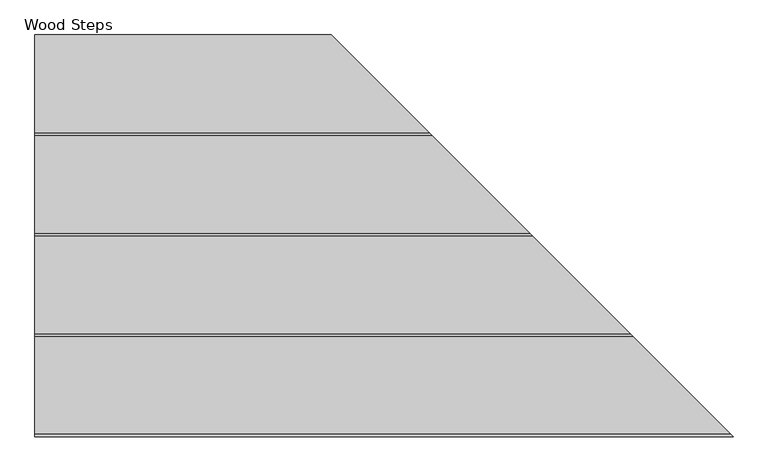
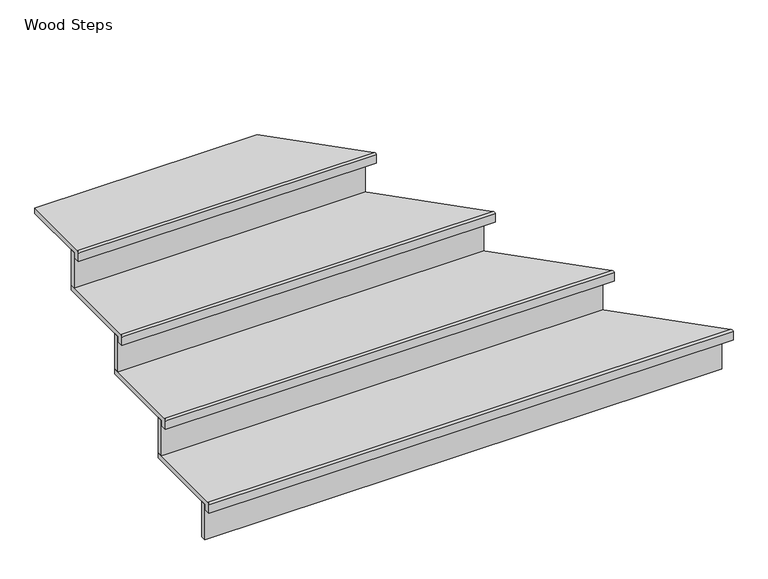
"""IFC4 building model written with IfcOpenShell, lengths in millimetres: stair flight geometry, Wood Steps."""

from ifc_helpers import new_model, si_unit, frame, origin, place, context, project, spatial, circle_curve, ellipse_curve, faceted_brep, source, transform, mapped, element, save
from ifc_brep_helpers import plane_surface, cylinder_surface, advanced_brep


def wood_steps_0b9f8741(model_context):
    return source(origin(), model_context, "Body", "SolidModel", [
        advanced_brep(
        [(29566.7670833, 8970.0499284, -615.95), (29560.4170833, 8976.3999284, -609.6), (27712.5670833, 8976.3999284, -609.6), (27712.5670833, 8970.0499284, -615.95), (29566.7670833, 8970.0499284, -647.7), (27712.5670833, 8970.0499284, -647.7), (29541.3670833, 8995.4499284, -647.7), (27712.5670833, 8995.4499284, -647.7), (27712.5670833, 8995.4499284, -628.65), (29541.3670833, 8995.4499284, -628.65), (29255.6170833, 9281.1999284, -609.6), (27712.5670833, 9281.1999284, -609.6), (27712.5670833, 9281.1999284, -628.65), (29255.6170833, 9281.1999284, -628.65)],
        [
            (0, 1, ellipse_curve(frame((29560.4170833, 8976.3999284, -615.95), z_axis=(-0.707106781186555, -0.7071067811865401, 0.0), x_axis=(0.70710678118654, -0.707106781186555, 0.0)), 8.9802561, 6.35)),
            (1, 2),
            (2, 3, circle_curve(frame((27712.5670833, 8976.3999284, -615.95), z_axis=(1.0, 0.0, 0.0), x_axis=(0.0, 1.0, 0.0)), 6.35)),
            (3, 0),
            (4, 0),
            (3, 5),
            (5, 4),
            (6, 4),
            (5, 7),
            (7, 6),
            (7, 8),
            (8, 9),
            (9, 6),
            (1, 10),
            (10, 11),
            (11, 2),
            (8, 12),
            (12, 13),
            (13, 9),
            (11, 12),
            (13, 10),
        ],
        [
            cylinder_surface(frame((29541.3670833, 8976.3999284, -615.95), z_axis=(1.0, 0.0, 0.0), x_axis=(0.0, 1.0, 0.0)), 6.35),
            plane_surface(frame((29566.7670833, 8970.0499284, -615.95), z_axis=(0.0, -1.0, 0.0), x_axis=(-1.0, 0.0, 0.0))),
            plane_surface(frame((29566.7670833, 8970.0499284, -647.7), z_axis=(0.0, 0.0, -1.0), x_axis=(-1.0, 0.0, 0.0))),
            plane_surface(frame((29541.3670833, 8995.4499284, -647.7), z_axis=(0.0, 1.0, 0.0), x_axis=(-1.0, 0.0, 0.0))),
            plane_surface(frame((27712.5670833, 8970.0499284, -609.6), z_axis=(0.0, 0.0, 1.0), x_axis=(0.0, -1.0, 0.0))),
            plane_surface(frame((27712.5670833, 8970.0499284, -628.65), z_axis=(0.0, 0.0, -1.0), x_axis=(0.0, 1.0, 0.0))),
            plane_surface(frame((27712.5670833, 9281.1999284, -609.6), z_axis=(-1.0, 0.0, 0.0), x_axis=(0.0, 0.0, -1.0))),
            plane_surface(frame((29541.3670833, 8995.4499284, -609.6), z_axis=(0.707106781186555, 0.7071067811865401, 0.0), x_axis=(0.0, 0.0, -1.0))),
            plane_surface(frame((29255.6170833, 9281.1999284, -609.6), z_axis=(0.0, 1.0, 0.0), x_axis=(0.0, 0.0, -1.0))),
        ],
        [
            (0, [[1, 2, 3, 4]]),
            (1, [[5, -4, 6, 7]]),
            (2, [[8, -7, 9, 10]]),
            (3, [[-10, 11, 12, 13]]),
            (4, [[-2, 14, 15, 16]]),
            (5, [[17, 18, 19, -12]]),
            (6, [[-16, 20, -17, -11, -9, -6, -3]]),
            (7, [[-14, -1, -5, -8, -13, -19, 21]]),
            (8, [[-15, -21, -18, -20]]),
        ],
    ),
        faceted_brep([(29541.3670833, 8995.4499284, -628.65), (29541.3670833, 8995.4499284, -762.0), (29522.3170833, 9014.4999284, -762.0), (29522.3170833, 9014.4999284, -628.65), (27712.5670833, 8995.4499284, -628.65), (27712.5670833, 9014.4999284, -628.65), (27712.5670833, 9014.4999284, -762.0), (27712.5670833, 8995.4499284, -762.0)], [[[0, 1, 2, 3]], [[4, 5, 6, 7]], [[1, 0, 4, 7]], [[2, 1, 7, 6]], [[3, 2, 6, 5]], [[0, 3, 5, 4]]]),
        faceted_brep([(29274.6670833, 9262.1499284, -476.25), (29274.6670833, 9262.1499284, -609.6), (29255.6170833, 9281.1999284, -609.6), (29255.6170833, 9281.1999284, -476.25), (27712.5670833, 9262.1499284, -476.25), (27712.5670833, 9281.1999284, -476.25), (27712.5670833, 9281.1999284, -609.6), (27712.5670833, 9262.1499284, -609.6)], [[[0, 1, 2, 3]], [[4, 5, 6, 7]], [[1, 0, 4, 7]], [[2, 1, 7, 6]], [[3, 2, 6, 5]], [[0, 3, 5, 4]]]),
        advanced_brep(
        [(27712.5670833, 9243.0999284, -457.2), (29293.7170833, 9243.0999284, -457.2), (28988.9170833, 9547.8999284, -457.2), (27712.5670833, 9547.8999284, -457.2), (27712.5670833, 9262.1499284, -476.25), (27712.5670833, 9547.8999284, -476.25), (28988.9170833, 9547.8999284, -476.25), (29274.6670833, 9262.1499284, -476.25), (29300.0670833, 9236.7499284, -463.55), (27712.5670833, 9236.7499284, -463.55), (29300.0670833, 9236.7499284, -495.3), (27712.5670833, 9236.7499284, -495.3), (29274.6670833, 9262.1499284, -495.3), (27712.5670833, 9262.1499284, -495.3)],
        [
            (0, 1),
            (1, 2),
            (2, 3),
            (3, 0),
            (4, 5),
            (5, 6),
            (6, 7),
            (7, 4),
            (2, 6),
            (5, 3),
            (8, 1, ellipse_curve(frame((29293.7170833, 9243.0999284, -463.55), z_axis=(-0.707106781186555, -0.7071067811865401, 0.0), x_axis=(0.7071067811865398, -0.7071067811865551, 0.0)), 8.9802561, 6.35)),
            (0, 9, circle_curve(frame((27712.5670833, 9243.0999284, -463.55), z_axis=(1.0, 0.0, 0.0), x_axis=(0.0, 1.0, 0.0)), 6.35)),
            (9, 8),
            (10, 8),
            (9, 11),
            (11, 10),
            (12, 10),
            (11, 13),
            (13, 12),
            (13, 4),
            (7, 12),
        ],
        [
            plane_surface(frame((27712.5670833, 8970.0499284, -457.2), z_axis=(0.0, 0.0, 1.0), x_axis=(0.0, -1.0, 0.0))),
            plane_surface(frame((27712.5670833, 8970.0499284, -476.25), z_axis=(0.0, 0.0, -1.0), x_axis=(0.0, 1.0, 0.0))),
            plane_surface(frame((28988.9170833, 9547.8999284, -457.2), z_axis=(0.0, 1.0, 0.0), x_axis=(0.0, 0.0, -1.0))),
            cylinder_surface(frame((29274.6670833, 9243.0999284, -463.55), z_axis=(1.0, 0.0, 0.0), x_axis=(0.0, 1.0, 0.0)), 6.35),
            plane_surface(frame((29300.0670833, 9236.7499284, -463.55), z_axis=(0.0, -1.0, 0.0), x_axis=(-1.0, 0.0, 0.0))),
            plane_surface(frame((29300.0670833, 9236.7499284, -495.3), z_axis=(0.0, 0.0, -1.0), x_axis=(-1.0, 0.0, 0.0))),
            plane_surface(frame((29274.6670833, 9262.1499284, -495.3), z_axis=(0.0, 1.0, 0.0), x_axis=(-1.0, 0.0, 0.0))),
            plane_surface(frame((27712.5670833, 9547.8999284, -457.2), z_axis=(-1.0, 0.0, 0.0), x_axis=(0.0, 0.0, -1.0))),
            plane_surface(frame((29274.6670833, 9262.1499284, -457.2), z_axis=(0.707106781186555, 0.7071067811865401, 0.0), x_axis=(0.0, 0.0, -1.0))),
        ],
        [
            (0, [[1, 2, 3, 4]]),
            (1, [[5, 6, 7, 8]]),
            (2, [[-3, 9, -6, 10]]),
            (3, [[11, -1, 12, 13]]),
            (4, [[14, -13, 15, 16]]),
            (5, [[17, -16, 18, 19]]),
            (6, [[-19, 20, -8, 21]]),
            (7, [[-4, -10, -5, -20, -18, -15, -12]]),
            (8, [[-2, -11, -14, -17, -21, -7, -9]]),
        ],
    ),
        faceted_brep([(28741.2670833, 9795.5499284, -171.45), (28741.2670833, 9795.5499284, -304.8), (28722.2170833, 9814.5999284, -304.8), (28722.2170833, 9814.5999284, -171.45), (27712.5670833, 9795.5499284, -171.45), (27712.5670833, 9814.5999284, -171.45), (27712.5670833, 9814.5999284, -304.8), (27712.5670833, 9795.5499284, -304.8)], [[[0, 1, 2, 3]], [[4, 5, 6, 7]], [[1, 0, 4, 7]], [[2, 1, 7, 6]], [[3, 2, 6, 5]], [[0, 3, 5, 4]]]),
        advanced_brep(
        [(27712.5670833, 9776.4999284, -152.4), (28760.3170833, 9776.4999284, -152.4), (28499.9670833, 10036.8499284, -152.4), (27712.5670833, 10036.8499284, -152.4), (27712.5670833, 9795.5499284, -171.45), (27712.5670833, 10036.8499284, -171.45), (28499.9670833, 10036.8499284, -171.45), (28741.2670833, 9795.5499284, -171.45), (28766.6670833, 9770.1499284, -158.75), (27712.5670833, 9770.1499284, -158.75), (28766.6670833, 9770.1499284, -190.5), (27712.5670833, 9770.1499284, -190.5), (28741.2670833, 9795.5499284, -190.5), (27712.5670833, 9795.5499284, -190.5)],
        [
            (0, 1),
            (1, 2),
            (2, 3),
            (3, 0),
            (4, 5),
            (5, 6),
            (6, 7),
            (7, 4),
            (2, 6),
            (5, 3),
            (8, 1, ellipse_curve(frame((28760.3170833, 9776.4999284, -158.75), z_axis=(-0.707106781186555, -0.7071067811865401, 0.0), x_axis=(0.7071067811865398, -0.7071067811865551, 0.0)), 8.9802561, 6.35)),
            (0, 9, circle_curve(frame((27712.5670833, 9776.4999284, -158.75), z_axis=(1.0, 0.0, 0.0), x_axis=(0.0, 1.0, 0.0)), 6.35)),
            (9, 8),
            (10, 8),
            (9, 11),
            (11, 10),
            (12, 10),
            (11, 13),
            (13, 12),
            (13, 4),
            (7, 12),
        ],
        [
            plane_surface(frame((27712.5670833, 8970.0499284, -152.4), z_axis=(0.0, 0.0, 1.0), x_axis=(0.0, -1.0, 0.0))),
            plane_surface(frame((27712.5670833, 8970.0499284, -171.45), z_axis=(0.0, 0.0, -1.0), x_axis=(0.0, 1.0, 0.0))),
            plane_surface(frame((28499.9670833, 10036.8499284, -152.4), z_axis=(0.0, 1.0, 0.0), x_axis=(0.0, 0.0, -1.0))),
            cylinder_surface(frame((28741.2670833, 9776.4999284, -158.75), z_axis=(1.0, 0.0, 0.0), x_axis=(0.0, 1.0, 0.0)), 6.35),
            plane_surface(frame((28766.6670833, 9770.1499284, -158.75), z_axis=(0.0, -1.0, 0.0), x_axis=(-1.0, 0.0, 0.0))),
            plane_surface(frame((28766.6670833, 9770.1499284, -190.5), z_axis=(0.0, 0.0, -1.0), x_axis=(-1.0, 0.0, 0.0))),
            plane_surface(frame((28741.2670833, 9795.5499284, -190.5), z_axis=(0.0, 1.0, 0.0), x_axis=(-1.0, 0.0, 0.0))),
            plane_surface(frame((27712.5670833, 10036.8499284, -152.4), z_axis=(-1.0, 0.0, 0.0), x_axis=(0.0, 0.0, -1.0))),
            plane_surface(frame((28741.2670833, 9795.5499284, -152.4), z_axis=(0.707106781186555, 0.7071067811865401, 0.0), x_axis=(0.0, 0.0, -1.0))),
        ],
        [
            (0, [[1, 2, 3, 4]]),
            (1, [[5, 6, 7, 8]]),
            (2, [[-3, 9, -6, 10]]),
            (3, [[11, -1, 12, 13]]),
            (4, [[14, -13, 15, 16]]),
            (5, [[17, -16, 18, 19]]),
            (6, [[-19, 20, -8, 21]]),
            (7, [[-4, -10, -5, -20, -18, -15, -12]]),
            (8, [[-2, -11, -14, -17, -21, -7, -9]]),
        ],
    ),
        faceted_brep([(29007.9670833, 9528.8499284, -323.85), (29007.9670833, 9528.8499284, -457.2), (28988.9170833, 9547.8999284, -457.2), (28988.9170833, 9547.8999284, -323.85), (27712.5670833, 9528.8499284, -323.85), (27712.5670833, 9547.8999284, -323.85), (27712.5670833, 9547.8999284, -457.2), (27712.5670833, 9528.8499284, -457.2)], [[[0, 1, 2, 3]], [[4, 5, 6, 7]], [[1, 0, 4, 7]], [[2, 1, 7, 6]], [[3, 2, 6, 5]], [[0, 3, 5, 4]]]),
        advanced_brep(
        [(27712.5670833, 9509.7999284, -304.8), (29027.0170833, 9509.7999284, -304.8), (28722.2170833, 9814.5999284, -304.8), (27712.5670833, 9814.5999284, -304.8), (27712.5670833, 9528.8499284, -323.85), (27712.5670833, 9814.5999284, -323.85), (28722.2170833, 9814.5999284, -323.85), (29007.9670833, 9528.8499284, -323.85), (29033.3670833, 9503.4499284, -311.15), (27712.5670833, 9503.4499284, -311.15), (29033.3670833, 9503.4499284, -342.9), (27712.5670833, 9503.4499284, -342.9), (29007.9670833, 9528.8499284, -342.9), (27712.5670833, 9528.8499284, -342.9)],
        [
            (0, 1),
            (1, 2),
            (2, 3),
            (3, 0),
            (4, 5),
            (5, 6),
            (6, 7),
            (7, 4),
            (2, 6),
            (5, 3),
            (8, 1, ellipse_curve(frame((29027.0170833, 9509.7999284, -311.15), z_axis=(-0.707106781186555, -0.7071067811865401, 0.0), x_axis=(0.70710678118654, -0.707106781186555, 0.0)), 8.9802561, 6.35)),
            (0, 9, circle_curve(frame((27712.5670833, 9509.7999284, -311.15), z_axis=(1.0, 0.0, 0.0), x_axis=(0.0, 1.0, 0.0)), 6.35)),
            (9, 8),
            (10, 8),
            (9, 11),
            (11, 10),
            (12, 10),
            (11, 13),
            (13, 12),
            (13, 4),
            (7, 12),
        ],
        [
            plane_surface(frame((27712.5670833, 8970.0499284, -304.8), z_axis=(0.0, 0.0, 1.0), x_axis=(0.0, -1.0, 0.0))),
            plane_surface(frame((27712.5670833, 8970.0499284, -323.85), z_axis=(0.0, 0.0, -1.0), x_axis=(0.0, 1.0, 0.0))),
            plane_surface(frame((28722.2170833, 9814.5999284, -304.8), z_axis=(0.0, 1.0, 0.0), x_axis=(0.0, 0.0, -1.0))),
            cylinder_surface(frame((29007.9670833, 9509.7999284, -311.15), z_axis=(1.0, 0.0, 0.0), x_axis=(0.0, 1.0, 0.0)), 6.35),
            plane_surface(frame((29033.3670833, 9503.4499284, -311.15), z_axis=(0.0, -1.0, 0.0), x_axis=(-1.0, 0.0, 0.0))),
            plane_surface(frame((29033.3670833, 9503.4499284, -342.9), z_axis=(0.0, 0.0, -1.0), x_axis=(-1.0, 0.0, 0.0))),
            plane_surface(frame((29007.9670833, 9528.8499284, -342.9), z_axis=(0.0, 1.0, 0.0), x_axis=(-1.0, 0.0, 0.0))),
            plane_surface(frame((27712.5670833, 9814.5999284, -304.8), z_axis=(-1.0, 0.0, 0.0), x_axis=(0.0, 0.0, -1.0))),
            plane_surface(frame((29007.9670833, 9528.8499284, -304.8), z_axis=(0.707106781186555, 0.7071067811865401, 0.0), x_axis=(0.0, 0.0, -1.0))),
        ],
        [
            (0, [[1, 2, 3, 4]]),
            (1, [[5, 6, 7, 8]]),
            (2, [[-3, 9, -6, 10]]),
            (3, [[11, -1, 12, 13]]),
            (4, [[14, -13, 15, 16]]),
            (5, [[17, -16, 18, 19]]),
            (6, [[-19, 20, -8, 21]]),
            (7, [[-4, -10, -5, -20, -18, -15, -12]]),
            (8, [[-2, -11, -14, -17, -21, -7, -9]]),
        ],
    ),
    ])


if __name__ == "__main__":
    model = new_model("IFC4")
    model_context = context("Model", 3, world=origin())
    ifc_project = project(units=[si_unit("LENGTHUNIT", "METRE", prefix="MILLI")], contexts=[model_context])
    site = spatial("IfcSite", under=ifc_project)
    building = spatial("IfcBuilding", under=site)
    placement = place(None, origin())
    wood_steps_shape = wood_steps_0b9f8741(model_context)
    element("IfcStairFlight", 1, ObjectType="Wood Steps", at=placement, inside=building, context=model_context, shape_type="MappedRepresentation", body=[
        mapped(wood_steps_shape, transform((0.0, 0.0, 0.0), x_axis=(1.0, 0.0, 0.0), y_axis=(0.0, 1.0, 0.0), z_axis=(0.0, 0.0, 1.0))),
    ])
    save(model, "model.ifc")
